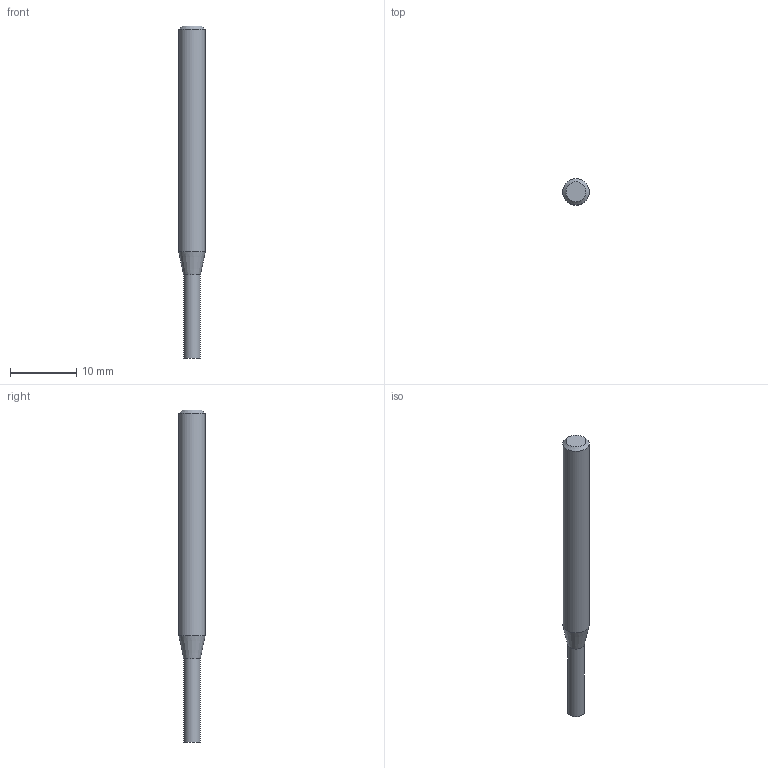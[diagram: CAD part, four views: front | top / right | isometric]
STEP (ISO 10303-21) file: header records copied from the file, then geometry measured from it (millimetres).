
FILE_DESCRIPTION((''),'2;1');
FILE_NAME('C:\Users\nsx150\AppData\Local\Temp\Mastercam 2021\E36A1X9CCL\TEMP.step','2023-04-21T15:28:09',(''),(''),'STEP Write','Mastercam 2021 ... CNC Software, Inc.','');
FILE_SCHEMA(('AUTOMOTIVE_DESIGN'));
Length unit declared in the file: millimetre
Products named in the file (1): None
Bounding box: 4 x 4 x 50 mm (x, y, z)
Volume: 516.6 mm3; surface area: 585.2 mm2
Topology: 2 solids, 2 shells, 8 faces, 10 edges, 6 vertices
Faces by surface type: plane 4, cylinder 2, cone 2
Full cylindrical faces by diameter (mm): 2.5 x1, 4 x1
Entity records: 190 total; most frequent: DIRECTION 32, CARTESIAN_POINT 22, AXIS2_PLACEMENT_3D 16, ORIENTED_EDGE 12, EDGE_LOOP 12, STYLED_ITEM 11, ADVANCED_FACE 8, VERTEX_POINT 6
